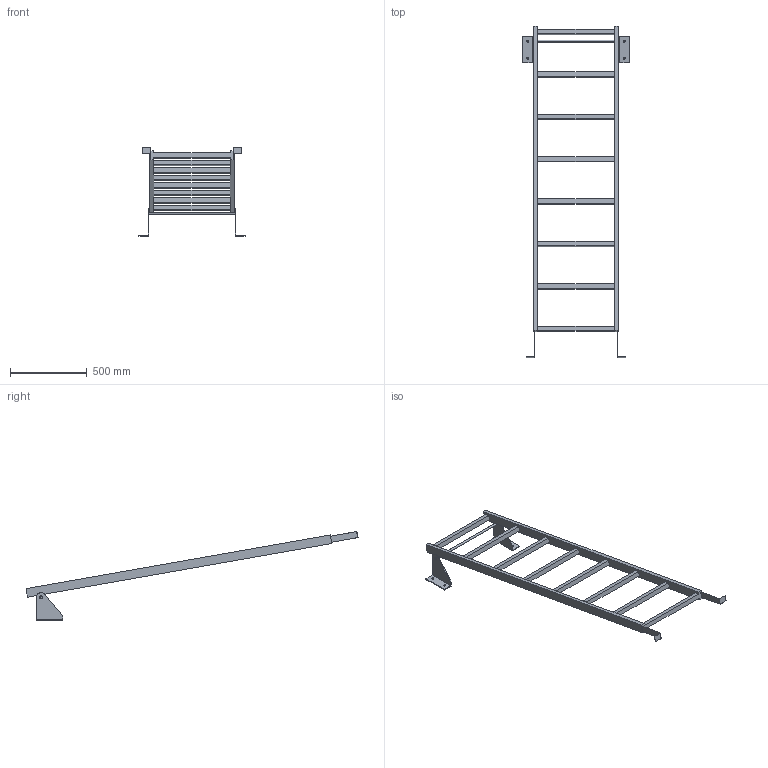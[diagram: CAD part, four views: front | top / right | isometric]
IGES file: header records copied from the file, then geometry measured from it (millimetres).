
Start section:  PTC IGES file: 52309760.igs
Global section: file name: 52309760.igs; native system: Creo Parametric by PTC Inc.; preprocessor: 2022162; author: wep; organization: Unknown; date: 20241017.085727; units: millimetre
Bounding box: 690 x 2159.24 x 578.17 mm (x, y, z)
Surface area: 1328758.7 mm2 (no closed solid volume)
Topology: 0 solids, 0 shells, 90 faces, 480 edges, 480 vertices
Faces by surface type: bspline 74, revolution 16
